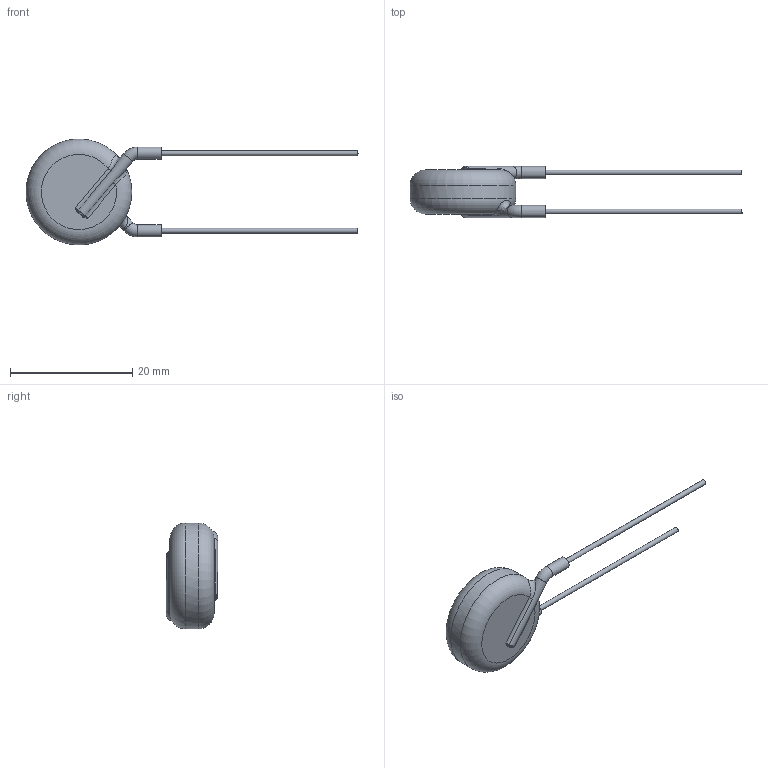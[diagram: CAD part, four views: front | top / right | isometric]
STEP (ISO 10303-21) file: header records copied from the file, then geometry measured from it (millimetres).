
FILE_DESCRIPTION((''),'2;1');
FILE_NAME('I:\Marketing\M6t1\3D-Models\Zchng-Werk-3\Upload for homepage\Ceramite\Y5U-10kV\615R100GASD10\615R100GASD10.stp','2015-08-28T15:16:06',(''),(''),'Autodesk Inventor 2013','Autodesk Inventor 2013','');
FILE_SCHEMA(('AUTOMOTIVE_DESIGN { 1 0 10303 214 1 1 1 1 }'));
Length unit declared in the file: centimetre
Products named in the file (1): 615R100GASD10
Bounding box: 54.3 x 8.38 x 17.3 mm (x, y, z)
Volume: 1657.6 mm3; surface area: 1005.8 mm2
Topology: 1 solids, 1 shells, 41 faces, 92 edges, 51 vertices
Faces by surface type: cylinder 13, bspline 10, torus 10, plane 8
Full cylindrical faces by diameter (mm): 0.81 x2, 1.98 x4, 17.3 x1
Entity records: 1483 total; most frequent: CARTESIAN_POINT 650, DIRECTION 152, ORIENTED_EDGE 140, AXIS2_PLACEMENT_3D 70, EDGE_CURVE 70, EDGE_LOOP 54, VERTEX_POINT 44, STYLED_ITEM 42
